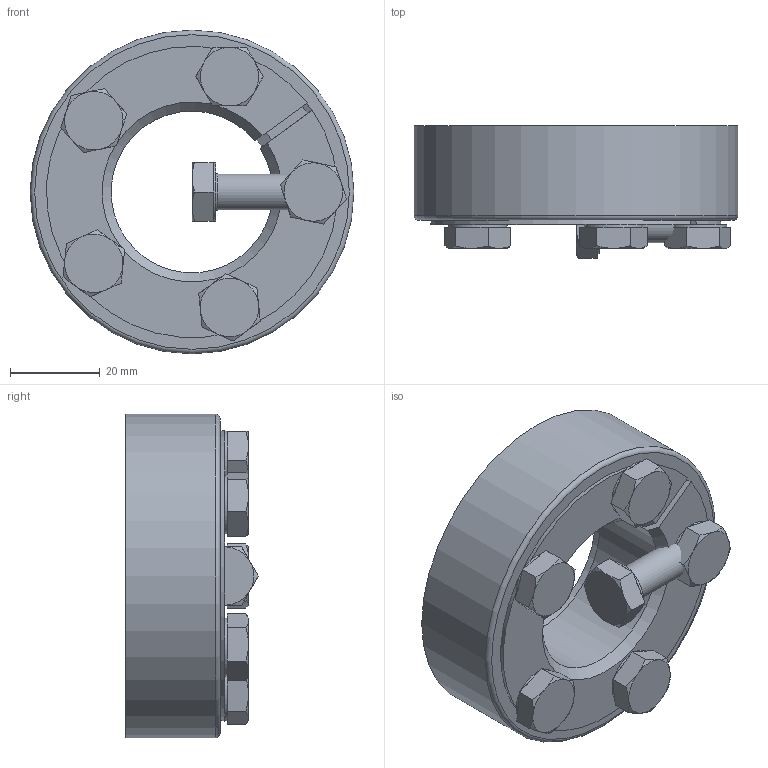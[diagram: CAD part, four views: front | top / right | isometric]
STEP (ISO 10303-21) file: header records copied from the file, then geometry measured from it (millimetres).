
FILE_DESCRIPTION( ( 'Unknown' ), '1' );
FILE_NAME( 'C:/Dokumente und Einstellungen/Sven/Desktop/homepage/cad - homepage/KBS19-1/KBS 19_1 - 36 x 72.stp', 'Unknown', ( 'Unknown' ), ( 'Unknown' ), 'XStep 1.0', 'Unknown', ' ' );
FILE_SCHEMA( ( 'automotive_design' ) );
Length unit declared in the file: millimetre
Products named in the file (3): Assem1; KBS 19_1 - 36 x 72; ISO 4017 - M8 x 20-N
Bounding box: 72 x 29.51 x 72 mm (x, y, z)
Volume: 130938.7 mm3; surface area: 37888.2 mm2
Topology: 8 solids, 8 shells, 190 faces, 426 edges, 258 vertices
Faces by surface type: plane 108, cone 48, cylinder 26, torus 8
Full cylindrical faces by diameter (mm): 8 x16, 13 x6, 72 x2
Entity records: 1490 total; most frequent: CARTESIAN_POINT 263, DIRECTION 216, ORIENTED_EDGE 186, EDGE_CURVE 93, AXIS2_PLACEMENT_3D 89, EDGE_LOOP 69, VERTEX_POINT 64, FACE_OUTER_BOUND 55
